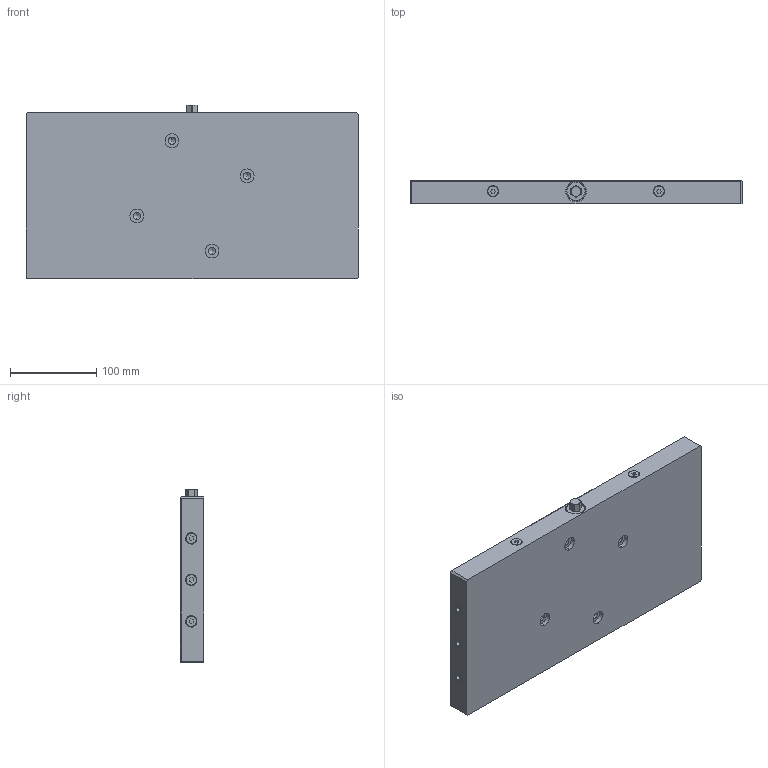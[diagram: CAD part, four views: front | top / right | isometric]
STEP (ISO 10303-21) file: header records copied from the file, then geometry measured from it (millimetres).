
FILE_DESCRIPTION (( 'STEP AP203' ), '1' );
FILE_NAME ('45720.STEP', '2015-05-20T06:26:28', ( '' ), ( '' ), 'SwSTEP 2.0', 'SolidWorks 2011', '' );
FILE_SCHEMA (( 'CONFIG_CONTROL_DESIGN' ));
Length unit declared in the file: millimetre
Products named in the file (1): 45720
Bounding box: 384 x 27 x 201 mm (x, y, z)
Volume: 1775602.8 mm3; surface area: 246223.9 mm2
Topology: 11 solids, 11 shells, 291 faces, 678 edges, 417 vertices
Faces by surface type: plane 119, cylinder 106, cone 50, torus 16
Entity records: 9435 total; most frequent: CARTESIAN_POINT 2734, DIRECTION 1397, ORIENTED_EDGE 1340, EDGE_CURVE 670, AXIS2_PLACEMENT_3D 515, VERTEX_POINT 417, LINE 367, VECTOR 367
